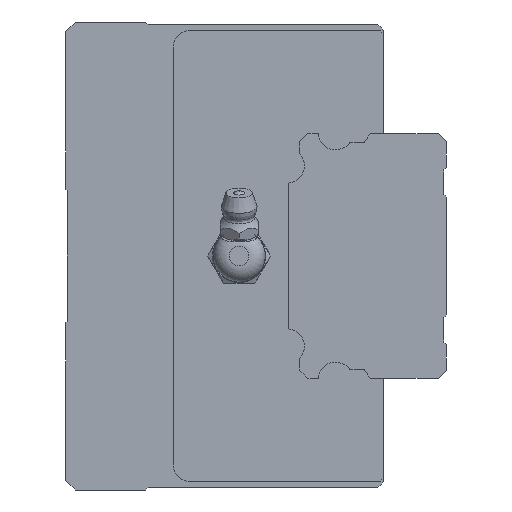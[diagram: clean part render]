
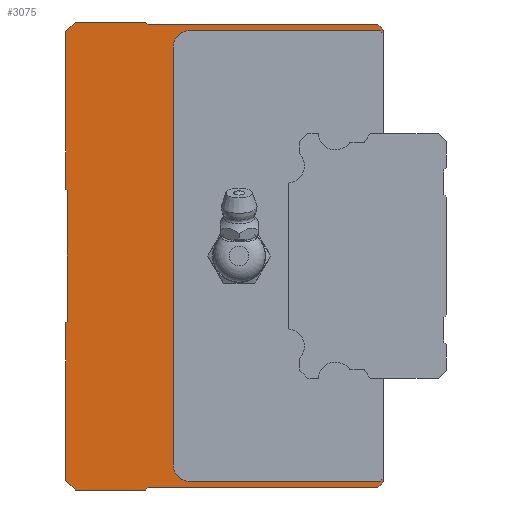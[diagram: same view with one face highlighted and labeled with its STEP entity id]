
A CAD part, left-side view. The second image highlights one B-rep face of the part: STEP entity #3075.
In plain terms, the highlighted planar face has unit normal (-1, 0, 0).
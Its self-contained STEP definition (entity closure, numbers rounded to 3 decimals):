
#203=CIRCLE('',#3407,3.);
#204=CIRCLE('',#3408,3.);
#787=ORIENTED_EDGE('',*,*,#1446,.F.);
#788=ORIENTED_EDGE('',*,*,#1302,.F.);
#789=ORIENTED_EDGE('',*,*,#1404,.F.);
#790=ORIENTED_EDGE('',*,*,#1401,.F.);
#791=ORIENTED_EDGE('',*,*,#1398,.F.);
#792=ORIENTED_EDGE('',*,*,#1395,.F.);
#793=ORIENTED_EDGE('',*,*,#1391,.F.);
#794=ORIENTED_EDGE('',*,*,#1437,.F.);
#795=ORIENTED_EDGE('',*,*,#1432,.F.);
#796=ORIENTED_EDGE('',*,*,#1429,.F.);
#797=ORIENTED_EDGE('',*,*,#1426,.F.);
#798=ORIENTED_EDGE('',*,*,#1423,.F.);
#799=ORIENTED_EDGE('',*,*,#1418,.F.);
#800=ORIENTED_EDGE('',*,*,#1415,.F.);
#801=ORIENTED_EDGE('',*,*,#1412,.F.);
#802=ORIENTED_EDGE('',*,*,#1409,.F.);
#803=ORIENTED_EDGE('',*,*,#1406,.F.);
#804=ORIENTED_EDGE('',*,*,#1308,.F.);
#805=ORIENTED_EDGE('',*,*,#1447,.F.);
#806=ORIENTED_EDGE('',*,*,#1448,.F.);
#807=ORIENTED_EDGE('',*,*,#1449,.F.);
#808=ORIENTED_EDGE('',*,*,#1450,.F.);
#809=ORIENTED_EDGE('',*,*,#1451,.F.);
#810=ORIENTED_EDGE('',*,*,#1452,.F.);
#1302=EDGE_CURVE('',#1683,#1684,#1973,.T.);
#1308=EDGE_CURVE('',#1689,#1690,#1979,.T.);
#1391=EDGE_CURVE('',#1768,#1769,#2020,.T.);
#1395=EDGE_CURVE('',#1769,#1772,#2024,.T.);
#1398=EDGE_CURVE('',#1772,#1774,#2027,.T.);
#1401=EDGE_CURVE('',#1774,#1776,#2030,.T.);
#1404=EDGE_CURVE('',#1776,#1683,#2033,.T.);
#1406=EDGE_CURVE('',#1690,#1778,#2035,.T.);
#1409=EDGE_CURVE('',#1778,#1780,#2038,.T.);
#1412=EDGE_CURVE('',#1780,#1782,#2041,.T.);
#1415=EDGE_CURVE('',#1782,#1784,#2044,.T.);
#1418=EDGE_CURVE('',#1784,#1786,#2047,.T.);
#1423=EDGE_CURVE('',#1786,#1790,#2050,.T.);
#1426=EDGE_CURVE('',#1790,#1792,#2053,.T.);
#1429=EDGE_CURVE('',#1792,#1794,#2056,.T.);
#1432=EDGE_CURVE('',#1794,#1796,#2059,.T.);
#1437=EDGE_CURVE('',#1796,#1768,#2062,.T.);
#1446=EDGE_CURVE('',#1684,#1806,#2069,.T.);
#1447=EDGE_CURVE('',#1807,#1689,#2070,.T.);
#1448=EDGE_CURVE('',#1808,#1807,#2071,.T.);
#1449=EDGE_CURVE('',#1809,#1808,#203,.F.);
#1450=EDGE_CURVE('',#1810,#1809,#2072,.T.);
#1451=EDGE_CURVE('',#1811,#1810,#204,.F.);
#1452=EDGE_CURVE('',#1806,#1811,#2073,.T.);
#1683=VERTEX_POINT('',#4802);
#1684=VERTEX_POINT('',#4804);
#1689=VERTEX_POINT('',#4815);
#1690=VERTEX_POINT('',#4817);
#1768=VERTEX_POINT('',#4981);
#1769=VERTEX_POINT('',#4982);
#1772=VERTEX_POINT('',#4990);
#1774=VERTEX_POINT('',#4996);
#1776=VERTEX_POINT('',#5002);
#1778=VERTEX_POINT('',#5011);
#1780=VERTEX_POINT('',#5017);
#1782=VERTEX_POINT('',#5023);
#1784=VERTEX_POINT('',#5029);
#1786=VERTEX_POINT('',#5035);
#1790=VERTEX_POINT('',#5045);
#1792=VERTEX_POINT('',#5051);
#1794=VERTEX_POINT('',#5057);
#1796=VERTEX_POINT('',#5063);
#1806=VERTEX_POINT('',#5090);
#1807=VERTEX_POINT('',#5092);
#1808=VERTEX_POINT('',#5094);
#1809=VERTEX_POINT('',#5096);
#1810=VERTEX_POINT('',#5098);
#1811=VERTEX_POINT('',#5100);
#1973=LINE('',#4803,#2223);
#1979=LINE('',#4816,#2229);
#2020=LINE('',#4980,#2270);
#2024=LINE('',#4989,#2274);
#2027=LINE('',#4995,#2277);
#2030=LINE('',#5001,#2280);
#2033=LINE('',#5007,#2283);
#2035=LINE('',#5010,#2285);
#2038=LINE('',#5016,#2288);
#2041=LINE('',#5022,#2291);
#2044=LINE('',#5028,#2294);
#2047=LINE('',#5034,#2297);
#2050=LINE('',#5044,#2300);
#2053=LINE('',#5050,#2303);
#2056=LINE('',#5056,#2306);
#2059=LINE('',#5062,#2309);
#2062=LINE('',#5072,#2312);
#2069=LINE('',#5089,#2319);
#2070=LINE('',#5091,#2320);
#2071=LINE('',#5093,#2321);
#2072=LINE('',#5097,#2322);
#2073=LINE('',#5101,#2323);
#2223=VECTOR('',#3894,1000.);
#2229=VECTOR('',#3902,1000.);
#2270=VECTOR('',#4033,1000.);
#2274=VECTOR('',#4039,1000.);
#2277=VECTOR('',#4044,1000.);
#2280=VECTOR('',#4049,1000.);
#2283=VECTOR('',#4054,1000.);
#2285=VECTOR('',#4058,1000.);
#2288=VECTOR('',#4063,1000.);
#2291=VECTOR('',#4068,1000.);
#2294=VECTOR('',#4073,1000.);
#2297=VECTOR('',#4078,1000.);
#2300=VECTOR('',#4087,1000.);
#2303=VECTOR('',#4092,1000.);
#2306=VECTOR('',#4097,1000.);
#2309=VECTOR('',#4102,1000.);
#2312=VECTOR('',#4111,1000.);
#2319=VECTOR('',#4126,1000.);
#2320=VECTOR('',#4127,1000.);
#2321=VECTOR('',#4128,1000.);
#2322=VECTOR('',#4131,1000.);
#2323=VECTOR('',#4134,1000.);
#2496=EDGE_LOOP('',(#787,#788,#789,#790,#791,#792,#793,#794,#795,#796,#797,
#798,#799,#800,#801,#802,#803,#804,#805,#806,#807,#808,#809,#810));
#2751=FACE_BOUND('',#2496,.T.);
#2946=PLANE('',#3406);
#3075=ADVANCED_FACE('',(#2751),#2946,.F.);
#3406=AXIS2_PLACEMENT_3D('',#5088,#4124,#4125);
#3407=AXIS2_PLACEMENT_3D('',#5095,#4129,#4130);
#3408=AXIS2_PLACEMENT_3D('',#5099,#4132,#4133);
#3894=DIRECTION('',(0.,0.,-1.));
#3902=DIRECTION('',(0.,0.,-1.));
#4033=DIRECTION('',(0.,-0.707,0.707));
#4039=DIRECTION('',(0.,-1.,0.));
#4044=DIRECTION('',(0.,-0.707,-0.707));
#4049=DIRECTION('',(0.,-1.,0.));
#4054=DIRECTION('',(0.,-0.707,-0.707));
#4058=DIRECTION('',(0.,0.707,-0.707));
#4063=DIRECTION('',(0.,1.,0.));
#4068=DIRECTION('',(0.,0.707,-0.707));
#4073=DIRECTION('',(0.,1.,0.));
#4078=DIRECTION('',(0.,0.707,0.707));
#4087=DIRECTION('',(0.,0.,1.));
#4092=DIRECTION('',(0.,-0.707,0.707));
#4097=DIRECTION('',(0.,0.,1.));
#4102=DIRECTION('',(0.,0.707,0.707));
#4111=DIRECTION('',(0.,0.,1.));
#4124=DIRECTION('',(1.,0.,0.));
#4125=DIRECTION('',(0.,0.,-1.));
#4126=DIRECTION('',(0.,0.707,0.707));
#4127=DIRECTION('',(0.,-0.707,0.707));
#4128=DIRECTION('',(0.,-1.,0.));
#4129=DIRECTION('',(1.,0.,0.));
#4130=DIRECTION('',(0.,0.,-1.));
#4131=DIRECTION('',(0.,0.,-1.));
#4132=DIRECTION('',(1.,0.,0.));
#4133=DIRECTION('',(0.,0.,-1.));
#4134=DIRECTION('',(0.,1.,0.));
#4802=CARTESIAN_POINT('',(-68.9,0.,41.5));
#4803=CARTESIAN_POINT('',(-68.9,0.,41.5));
#4804=CARTESIAN_POINT('',(-68.9,0.,40.9));
#4815=CARTESIAN_POINT('',(-68.9,0.,-40.9));
#4816=CARTESIAN_POINT('',(-68.9,0.,41.5));
#4817=CARTESIAN_POINT('',(-68.9,0.,-41.5));
#4980=CARTESIAN_POINT('',(-68.9,58.4,41.2));
#4981=CARTESIAN_POINT('',(-68.9,58.4,41.2));
#4982=CARTESIAN_POINT('',(-68.9,56.6,43.));
#4989=CARTESIAN_POINT('',(-68.9,56.6,43.));
#4990=CARTESIAN_POINT('',(-68.9,43.7,43.));
#4995=CARTESIAN_POINT('',(-68.9,43.7,43.));
#4996=CARTESIAN_POINT('',(-68.9,43.2,42.5));
#5001=CARTESIAN_POINT('',(-68.9,43.2,42.5));
#5002=CARTESIAN_POINT('',(-68.9,1.,42.5));
#5007=CARTESIAN_POINT('',(-68.9,1.,42.5));
#5010=CARTESIAN_POINT('',(-68.9,0.,-41.5));
#5011=CARTESIAN_POINT('',(-68.9,1.,-42.5));
#5016=CARTESIAN_POINT('',(-68.9,1.,-42.5));
#5017=CARTESIAN_POINT('',(-68.9,43.2,-42.5));
#5022=CARTESIAN_POINT('',(-68.9,43.2,-42.5));
#5023=CARTESIAN_POINT('',(-68.9,43.7,-43.));
#5028=CARTESIAN_POINT('',(-68.9,43.7,-43.));
#5029=CARTESIAN_POINT('',(-68.9,56.6,-43.));
#5034=CARTESIAN_POINT('',(-68.9,56.6,-43.));
#5035=CARTESIAN_POINT('',(-68.9,58.4,-41.2));
#5044=CARTESIAN_POINT('',(-68.9,58.4,-41.2));
#5045=CARTESIAN_POINT('',(-68.9,58.4,-12.3));
#5050=CARTESIAN_POINT('',(-68.9,58.4,-12.3));
#5051=CARTESIAN_POINT('',(-68.9,58.1,-12.));
#5056=CARTESIAN_POINT('',(-68.9,58.1,-12.));
#5057=CARTESIAN_POINT('',(-68.9,58.1,12.));
#5062=CARTESIAN_POINT('',(-68.9,58.1,12.));
#5063=CARTESIAN_POINT('',(-68.9,58.4,12.3));
#5072=CARTESIAN_POINT('',(-68.9,58.4,12.3));
#5088=CARTESIAN_POINT('',(-68.9,0.,0.));
#5089=CARTESIAN_POINT('',(-68.9,-20.45,20.45));
#5090=CARTESIAN_POINT('',(-68.9,0.5,41.4));
#5091=CARTESIAN_POINT('',(-68.9,-20.45,-20.45));
#5092=CARTESIAN_POINT('',(-68.9,0.5,-41.4));
#5093=CARTESIAN_POINT('',(-68.9,0.,-41.4));
#5094=CARTESIAN_POINT('',(-68.9,35.6,-41.4));
#5095=CARTESIAN_POINT('',(-68.9,35.6,-38.4));
#5096=CARTESIAN_POINT('',(-68.9,38.6,-38.4));
#5097=CARTESIAN_POINT('',(-68.9,38.6,0.));
#5098=CARTESIAN_POINT('',(-68.9,38.6,38.4));
#5099=CARTESIAN_POINT('',(-68.9,35.6,38.4));
#5100=CARTESIAN_POINT('',(-68.9,35.6,41.4));
#5101=CARTESIAN_POINT('',(-68.9,0.,41.4));
